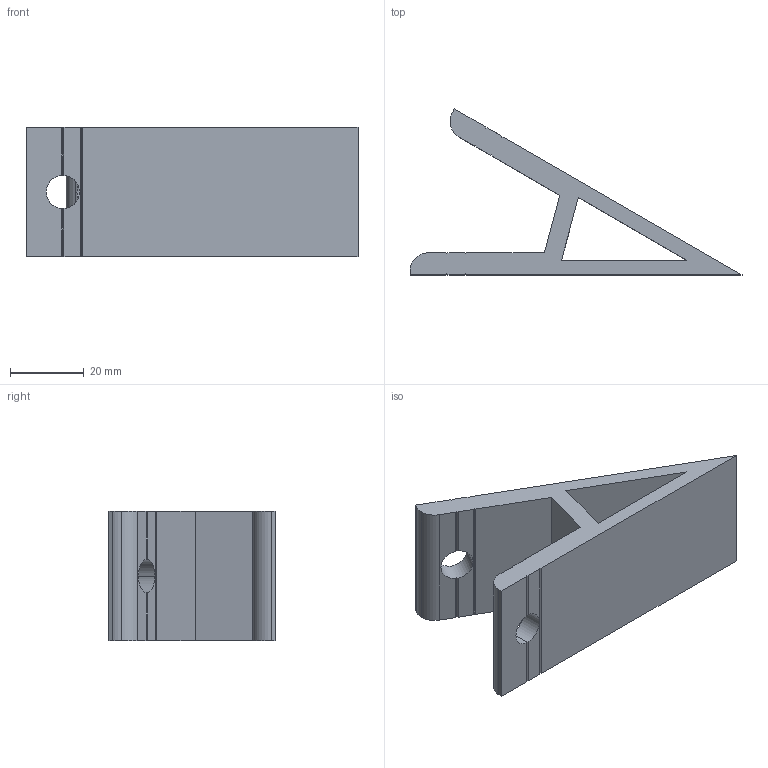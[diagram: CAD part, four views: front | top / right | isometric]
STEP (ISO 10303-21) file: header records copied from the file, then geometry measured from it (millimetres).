
FILE_DESCRIPTION (( 'STEP AP203' ), '1' );
FILE_NAME ('DALV3035-8.STEP', '2020-10-14T01:53:18', ( '' ), ( '' ), 'SwSTEP 2.0', 'SolidWorks 2017', '' );
FILE_SCHEMA (( 'CONFIG_CONTROL_DESIGN' ));
Length unit declared in the file: millimetre
Products named in the file (1): DALV3035-8
Bounding box: 90 x 45 x 35 mm (x, y, z)
Volume: 30326.4 mm3; surface area: 14601.9 mm2
Topology: 1 solids, 1 shells, 51 faces, 155 edges, 102 vertices
Faces by surface type: plane 44, cylinder 7
Entity records: 1804 total; most frequent: CARTESIAN_POINT 357, ORIENTED_EDGE 310, DIRECTION 261, EDGE_CURVE 155, VECTOR 121, LINE 121, VERTEX_POINT 102, AXIS2_PLACEMENT_3D 70
